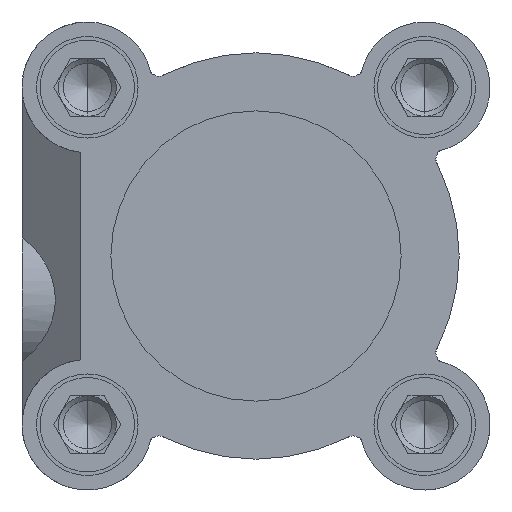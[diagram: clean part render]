
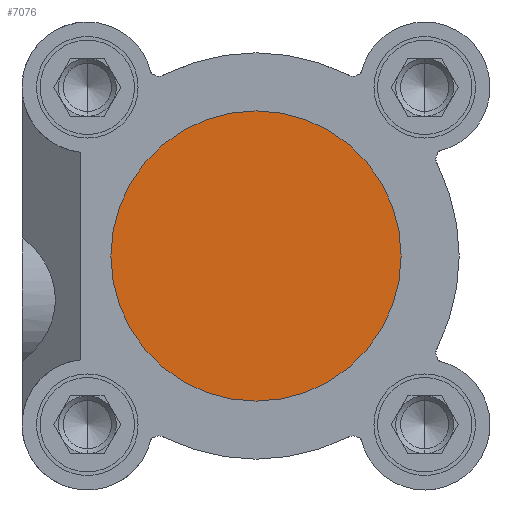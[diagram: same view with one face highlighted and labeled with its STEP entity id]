
A CAD part, left-side view. The second image highlights one B-rep face of the part: STEP entity #7076.
In plain terms, the highlighted planar face has unit normal (-1, 0, 0).
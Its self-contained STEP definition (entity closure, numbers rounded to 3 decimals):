
#504 = CIRCLE ( 'NONE', #6296, 20. ) ;
#577 = EDGE_CURVE ( 'NONE', #9164, #9675, #504, .T. ) ;
#655 = CARTESIAN_POINT ( 'NONE',  ( -260., 0., -20. ) ) ;
#2395 = CARTESIAN_POINT ( 'NONE',  ( -260., 0., 0. ) ) ;
#2457 = PLANE ( 'NONE',  #4805 ) ;
#3915 = EDGE_LOOP ( 'NONE', ( #12675, #11608 ) ) ;
#4805 = AXIS2_PLACEMENT_3D ( 'NONE', #6900, #9248, #12043 ) ;
#6283 = DIRECTION ( 'NONE',  ( -1., 0., 0. ) ) ;
#6296 = AXIS2_PLACEMENT_3D ( 'NONE', #2395, #6283, #12909 ) ;
#6900 = CARTESIAN_POINT ( 'NONE',  ( -260., 20., 0. ) ) ;
#7076 = ADVANCED_FACE ( 'NONE', ( #14270 ), #2457, .F. ) ;
#7793 = DIRECTION ( 'NONE',  ( 0., 0., 1. ) ) ;
#9083 = CARTESIAN_POINT ( 'NONE',  ( -260., 0., 0. ) ) ;
#9164 = VERTEX_POINT ( 'NONE', #655 ) ;
#9248 = DIRECTION ( 'NONE',  ( 1., 0., 0. ) ) ;
#9675 = VERTEX_POINT ( 'NONE', #16976 ) ;
#11608 = ORIENTED_EDGE ( 'NONE', *, *, #577, .T. ) ;
#12043 = DIRECTION ( 'NONE',  ( 0., 0., -1. ) ) ;
#12675 = ORIENTED_EDGE ( 'NONE', *, *, #13249, .T. ) ;
#12909 = DIRECTION ( 'NONE',  ( 0., 0., 1. ) ) ;
#13249 = EDGE_CURVE ( 'NONE', #9675, #9164, #14492, .T. ) ;
#14270 = FACE_OUTER_BOUND ( 'NONE', #3915, .T. ) ;
#14374 = DIRECTION ( 'NONE',  ( -1., 0., 0. ) ) ;
#14492 = CIRCLE ( 'NONE', #16403, 20. ) ;
#16403 = AXIS2_PLACEMENT_3D ( 'NONE', #9083, #14374, #7793 ) ;
#16976 = CARTESIAN_POINT ( 'NONE',  ( -260., 0., 20. ) ) ;
